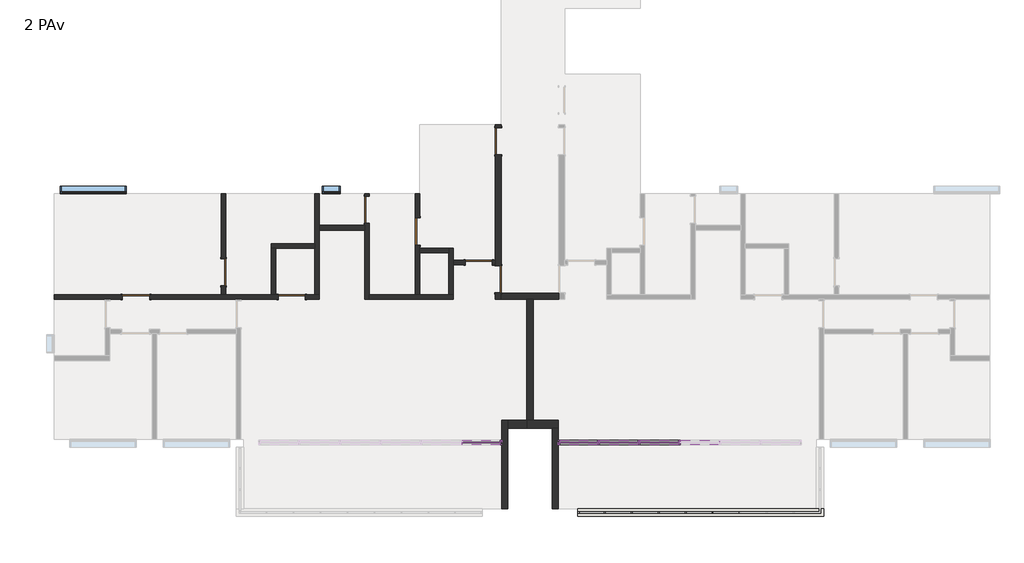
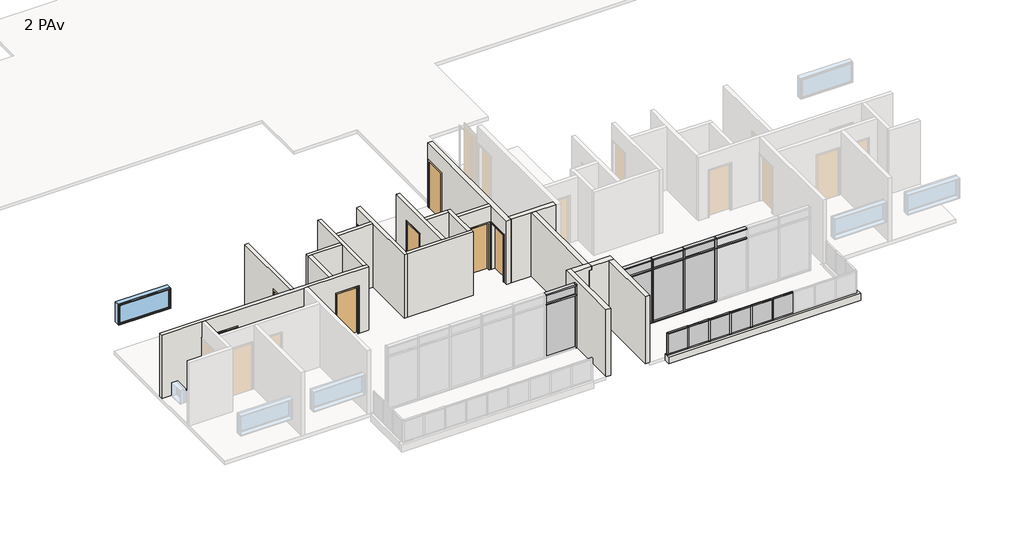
# One storey, part 2 of 6: 40 members, 20 walls, 14 plates, 8 doors, 2 windows.
"""IFC4 building model written with IfcOpenShell, lengths in millimetres."""

from ifc_helpers import new_model, si_unit, frame, origin, place, context, project, spatial, polyline, outline, extrude, faceted_brep, transform, mapped, element, save
from components import door_90_x_210_2c83007d, door_90_x_210_ee935524, door_90_x_210_565370b3, montante_retangular_50_mm_quadrado_4acded50, montante_retangular_50_mm_quadrado_237d7072, montante_retangular_50_mm_quadrado_84e40a56, montante_retangular_50_mm_quadrado_3d152aff, montante_retangular_50_x_150_mm_6217edde, montante_retangular_50_x_150_mm_a22249d7, montante_retangular_50_x_150_mm_6225e4e3, montante_retangular_50_x_150_mm_1ca2bba2, montante_retangular_50_x_150_mm_6abf4531, montante_retangular_50_x_150_mm_662c37b1, montante_retangular_50_x_150_mm_567eccab, montante_retangular_50_x_150_mm_0a8c3443, painel_do_sistema_57ceaf50, painel_do_sistema_ab0ed719, painel_do_sistema_1ecb5f42, painel_do_sistema_49db1829, painel_do_sistema_5ea5287b, painel_do_sistema_7730abee, window_0610_x_0610_mm_da1d4716, window_220_x_90_cea65aae

model = new_model("IFC4")

# Units and contexts
model_context = context("Model", 3, world=origin())
ifc_project = project(units=[si_unit("LENGTHUNIT", "METRE", prefix="MILLI")], contexts=[model_context])

# Site, building, storey
site = spatial("IfcSite", under=ifc_project)
building = spatial("IfcBuilding", under=site)
storey = spatial("IfcBuildingStorey", under=building, Name="2 PAv", Elevation=6000.0)

# Doors
placement = place(None, origin())
door_90_x_210_shape = door_90_x_210_2c83007d(model_context)
element("IfcDoor", 1, ObjectType="M_Descarga simples : 90 x 210", at=placement, inside=storey, context=model_context, shape_type="MappedRepresentation", body=[
    mapped(door_90_x_210_shape, transform((-2076.2265742, -2546.3385375, 6000.0), x_axis=(0.0, 1.0, 0.0), y_axis=(-1.0, 0.0, 0.0), z_axis=(0.0, 0.0, 1.0))),
])
element("IfcDoor", 2, ObjectType="M_Descarga simples : 90 x 210", at=placement, inside=storey, context=model_context, shape_type="MappedRepresentation", body=[
    mapped(door_90_x_210_shape, transform((-2076.2265742, -7125.9292512, 6000.0), x_axis=(0.0, -1.0, 0.0), y_axis=(1.0, 0.0, 0.0), z_axis=(0.0, 0.0, 1.0))),
])
door_90_x_210_2_shape = door_90_x_210_ee935524(model_context)
element("IfcDoor", 3, ObjectType="M_Descarga simples : 90 x 210", at=placement, inside=storey, context=model_context, shape_type="MappedRepresentation", body=[
    mapped(door_90_x_210_2_shape, transform((-2726.2265742, -6571.3385375, 6000.0), x_axis=(1.0, 0.0, 0.0), y_axis=(0.0, 1.0, 0.0), z_axis=(0.0, 0.0, 1.0))),
])
element("IfcDoor", 4, ObjectType="M_Descarga simples : 90 x 210", at=placement, inside=storey, context=model_context, shape_type="MappedRepresentation", body=[
    mapped(door_90_x_210_2_shape, transform((-4751.2265742, -5536.3385375, 6000.0), x_axis=(0.0, 1.0, 0.0), y_axis=(-1.0, 0.0, 0.0), z_axis=(0.0, 0.0, 1.0))),
])
element("IfcDoor", 5, ObjectType="M_Descarga simples : 90 x 210", at=placement, inside=storey, context=model_context, shape_type="MappedRepresentation", body=[
    mapped(door_90_x_210_2_shape, transform((-6441.2265742, -4811.3385375, 6000.0), x_axis=(0.0, 1.0, 0.0), y_axis=(-1.0, 0.0, 0.0), z_axis=(0.0, 0.0, 1.0))),
])
element("IfcDoor", 6, ObjectType="M_Descarga simples : 90 x 210", at=placement, inside=storey, context=model_context, shape_type="MappedRepresentation", body=[
    mapped(door_90_x_210_2_shape, transform((-11191.2265742, -6886.3385375, 6000.0), x_axis=(0.0, -1.0, 0.0), y_axis=(1.0, 0.0, 0.0), z_axis=(0.0, 0.0, 1.0))),
])
door_90_x_210_3_shape = door_90_x_210_565370b3(model_context)
element("IfcDoor", 7, ObjectType="M_Descarga simples : 90 x 210", at=placement, inside=storey, context=model_context, shape_type="MappedRepresentation", body=[
    mapped(door_90_x_210_3_shape, transform((-14096.2265742, -7711.3385375, 6000.0), x_axis=(-1.0, 0.0, 0.0), y_axis=(0.0, -1.0, 0.0), z_axis=(0.0, 0.0, 1.0))),
])
element("IfcDoor", 8, ObjectType="M_Descarga simples : 90 x 210", at=placement, inside=storey, context=model_context, shape_type="MappedRepresentation", body=[
    mapped(door_90_x_210_3_shape, transform((-8936.2265742, -7711.3385375, 6000.0), x_axis=(-1.0, 0.0, 0.0), y_axis=(0.0, -1.0, 0.0), z_axis=(0.0, 0.0, 1.0))),
])

# Members
montante_retangular_50_mm_quadrado_shape = montante_retangular_50_mm_quadrado_4acded50(model_context)
element("IfcMember", 9, ObjectType="Montante retangular : 50 mm Quadrado", at=placement, inside=storey, context=model_context, shape_type="MappedRepresentation", body=[
    mapped(montante_retangular_50_mm_quadrado_shape, transform((1428.7734258, -14856.3385375, 7150.0), x_axis=(0.0, 0.0, 1.0), y_axis=(0.0, -1.0, 0.0), z_axis=(1.0, 0.0, 0.0))),
])
montante_retangular_50_mm_quadrado_2_shape = montante_retangular_50_mm_quadrado_237d7072(model_context)
element("IfcMember", 10, ObjectType="Montante retangular : 50 mm Quadrado", at=placement, inside=storey, context=model_context, shape_type="MappedRepresentation", body=[
    mapped(montante_retangular_50_mm_quadrado_2_shape, transform((2323.7734258, -14856.3385375, 7150.0), x_axis=(0.0, 0.0, 1.0), y_axis=(0.0, -1.0, 0.0), z_axis=(1.0, 0.0, 0.0))),
])
element("IfcMember", 11, ObjectType="Montante retangular : 50 mm Quadrado", at=placement, inside=storey, context=model_context, shape_type="MappedRepresentation", body=[
    mapped(montante_retangular_50_mm_quadrado_2_shape, transform((3218.7734258, -14856.3385375, 7150.0), x_axis=(0.0, 0.0, 1.0), y_axis=(0.0, -1.0, 0.0), z_axis=(1.0, 0.0, 0.0))),
])
element("IfcMember", 12, ObjectType="Montante retangular : 50 mm Quadrado", at=placement, inside=storey, context=model_context, shape_type="MappedRepresentation", body=[
    mapped(montante_retangular_50_mm_quadrado_2_shape, transform((4113.7734258, -14856.3385375, 7150.0), x_axis=(0.0, 0.0, 1.0), y_axis=(0.0, -1.0, 0.0), z_axis=(1.0, 0.0, 0.0))),
])
element("IfcMember", 13, ObjectType="Montante retangular : 50 mm Quadrado", at=placement, inside=storey, context=model_context, shape_type="MappedRepresentation", body=[
    mapped(montante_retangular_50_mm_quadrado_2_shape, transform((5008.7734258, -14856.3385375, 7150.0), x_axis=(0.0, 0.0, 1.0), y_axis=(0.0, -1.0, 0.0), z_axis=(1.0, 0.0, 0.0))),
])
element("IfcMember", 14, ObjectType="Montante retangular : 50 mm Quadrado", at=placement, inside=storey, context=model_context, shape_type="MappedRepresentation", body=[
    mapped(montante_retangular_50_mm_quadrado_2_shape, transform((5903.7734258, -14856.3385375, 7150.0), x_axis=(0.0, 0.0, 1.0), y_axis=(0.0, -1.0, 0.0), z_axis=(1.0, 0.0, 0.0))),
])
element("IfcMember", 15, ObjectType="Montante retangular : 50 mm Quadrado", at=placement, inside=storey, context=model_context, shape_type="MappedRepresentation", body=[
    mapped(montante_retangular_50_mm_quadrado_shape, transform((608.7734258, -14856.3385375, 6150.0), x_axis=(0.0, 0.0, -1.0), y_axis=(0.0, -1.0, 0.0), z_axis=(-1.0, 0.0, 0.0))),
])
element("IfcMember", 16, ObjectType="Montante retangular : 50 mm Quadrado", at=placement, inside=storey, context=model_context, shape_type="MappedRepresentation", body=[
    mapped(montante_retangular_50_mm_quadrado_2_shape, transform((1478.7734258, -14856.3385375, 6150.0), x_axis=(0.0, 0.0, -1.0), y_axis=(0.0, -1.0, 0.0), z_axis=(-1.0, 0.0, 0.0))),
])
element("IfcMember", 17, ObjectType="Montante retangular : 50 mm Quadrado", at=placement, inside=storey, context=model_context, shape_type="MappedRepresentation", body=[
    mapped(montante_retangular_50_mm_quadrado_2_shape, transform((2373.7734258, -14856.3385375, 6150.0), x_axis=(0.0, 0.0, -1.0), y_axis=(0.0, -1.0, 0.0), z_axis=(-1.0, 0.0, 0.0))),
])
element("IfcMember", 18, ObjectType="Montante retangular : 50 mm Quadrado", at=placement, inside=storey, context=model_context, shape_type="MappedRepresentation", body=[
    mapped(montante_retangular_50_mm_quadrado_2_shape, transform((3268.7734258, -14856.3385375, 6150.0), x_axis=(0.0, 0.0, -1.0), y_axis=(0.0, -1.0, 0.0), z_axis=(-1.0, 0.0, 0.0))),
])
element("IfcMember", 19, ObjectType="Montante retangular : 50 mm Quadrado", at=placement, inside=storey, context=model_context, shape_type="MappedRepresentation", body=[
    mapped(montante_retangular_50_mm_quadrado_2_shape, transform((4163.7734258, -14856.3385375, 6150.0), x_axis=(0.0, 0.0, -1.0), y_axis=(0.0, -1.0, 0.0), z_axis=(-1.0, 0.0, 0.0))),
])
element("IfcMember", 20, ObjectType="Montante retangular : 50 mm Quadrado", at=placement, inside=storey, context=model_context, shape_type="MappedRepresentation", body=[
    mapped(montante_retangular_50_mm_quadrado_2_shape, transform((5058.7734258, -14856.3385375, 6150.0), x_axis=(0.0, 0.0, -1.0), y_axis=(0.0, -1.0, 0.0), z_axis=(-1.0, 0.0, 0.0))),
])
montante_retangular_50_mm_quadrado_3_shape = montante_retangular_50_mm_quadrado_84e40a56(model_context)
element("IfcMember", 21, ObjectType="Montante retangular : 50 mm Quadrado", at=placement, inside=storey, context=model_context, shape_type="MappedRepresentation", body=[
    mapped(montante_retangular_50_mm_quadrado_3_shape, transform((1453.7734258, -14856.3385375, 6150.0), x_axis=(1.0, 0.0, 0.0), y_axis=(0.0, -1.0, 0.0), z_axis=(0.0, 0.0, -1.0))),
])
element("IfcMember", 22, ObjectType="Montante retangular : 50 mm Quadrado", at=placement, inside=storey, context=model_context, shape_type="MappedRepresentation", body=[
    mapped(montante_retangular_50_mm_quadrado_3_shape, transform((2348.7734258, -14856.3385375, 6150.0), x_axis=(1.0, 0.0, 0.0), y_axis=(0.0, -1.0, 0.0), z_axis=(0.0, 0.0, -1.0))),
])
element("IfcMember", 23, ObjectType="Montante retangular : 50 mm Quadrado", at=placement, inside=storey, context=model_context, shape_type="MappedRepresentation", body=[
    mapped(montante_retangular_50_mm_quadrado_3_shape, transform((3243.7734258, -14856.3385375, 6150.0), x_axis=(1.0, 0.0, 0.0), y_axis=(0.0, -1.0, 0.0), z_axis=(0.0, 0.0, -1.0))),
])
element("IfcMember", 24, ObjectType="Montante retangular : 50 mm Quadrado", at=placement, inside=storey, context=model_context, shape_type="MappedRepresentation", body=[
    mapped(montante_retangular_50_mm_quadrado_3_shape, transform((4138.7734258, -14856.3385375, 6150.0), x_axis=(1.0, 0.0, 0.0), y_axis=(0.0, -1.0, 0.0), z_axis=(0.0, 0.0, -1.0))),
])
montante_retangular_50_mm_quadrado_4_shape = montante_retangular_50_mm_quadrado_3d152aff(model_context)
element("IfcMember", 25, ObjectType="Montante retangular : 50 mm Quadrado", at=placement, inside=storey, context=model_context, shape_type="MappedRepresentation", body=[
    mapped(montante_retangular_50_mm_quadrado_4_shape, transform((558.7734258, -14856.3385375, 7150.0), x_axis=(-1.0, 0.0, 0.0), y_axis=(0.0, -1.0, 0.0), z_axis=(0.0, 0.0, 1.0))),
])
montante_retangular_50_x_150_mm_shape = montante_retangular_50_x_150_mm_6217edde(model_context)
element("IfcMember", 26, ObjectType="Montante retangular : 50 x 150 mm", at=placement, inside=storey, context=model_context, shape_type="MappedRepresentation", body=[
    mapped(montante_retangular_50_x_150_mm_shape, transform((-2011.2265742, -12536.3385375, 8850.0), x_axis=(0.0, 0.0, 1.0), y_axis=(0.0, -1.0, 0.0), z_axis=(1.0, 0.0, 0.0))),
])
element("IfcMember", 27, ObjectType="Montante retangular : 50 x 150 mm", at=placement, inside=storey, context=model_context, shape_type="MappedRepresentation", body=[
    mapped(montante_retangular_50_x_150_mm_shape, transform((-41.2265742, -12536.3385375, 8850.0), x_axis=(0.0, 0.0, 1.0), y_axis=(0.0, 1.0, 0.0), z_axis=(-1.0, 0.0, 0.0))),
])
montante_retangular_50_x_150_mm_2_shape = montante_retangular_50_x_150_mm_a22249d7(model_context)
element("IfcMember", 28, ObjectType="Montante retangular : 50 x 150 mm", at=placement, inside=storey, context=model_context, shape_type="MappedRepresentation", body=[
    mapped(montante_retangular_50_x_150_mm_2_shape, transform((3966.2734258, -12536.3385375, 8850.0), x_axis=(0.0, 0.0, 1.0), y_axis=(0.0, 1.0, 0.0), z_axis=(-1.0, 0.0, 0.0))),
])
element("IfcMember", 29, ObjectType="Montante retangular : 50 x 150 mm", at=placement, inside=storey, context=model_context, shape_type="MappedRepresentation", body=[
    mapped(montante_retangular_50_x_150_mm_2_shape, transform((2622.1067592, -12536.3385375, 8850.0), x_axis=(0.0, 0.0, 1.0), y_axis=(0.0, 1.0, 0.0), z_axis=(-1.0, 0.0, 0.0))),
])
element("IfcMember", 30, ObjectType="Montante retangular : 50 x 150 mm", at=placement, inside=storey, context=model_context, shape_type="MappedRepresentation", body=[
    mapped(montante_retangular_50_x_150_mm_2_shape, transform((1277.9400925, -12536.3385375, 8850.0), x_axis=(0.0, 0.0, 1.0), y_axis=(0.0, 1.0, 0.0), z_axis=(-1.0, 0.0, 0.0))),
])
element("IfcMember", 31, ObjectType="Montante retangular : 50 x 150 mm", at=placement, inside=storey, context=model_context, shape_type="MappedRepresentation", body=[
    mapped(montante_retangular_50_x_150_mm_shape, transform((1227.9400925, -12536.3385375, 6000.0), x_axis=(0.0, 0.0, -1.0), y_axis=(0.0, 1.0, 0.0), z_axis=(1.0, 0.0, 0.0))),
])
element("IfcMember", 32, ObjectType="Montante retangular : 50 x 150 mm", at=placement, inside=storey, context=model_context, shape_type="MappedRepresentation", body=[
    mapped(montante_retangular_50_x_150_mm_2_shape, transform((3916.2734258, -12536.3385375, 6000.0), x_axis=(0.0, 0.0, -1.0), y_axis=(0.0, 1.0, 0.0), z_axis=(1.0, 0.0, 0.0))),
])
element("IfcMember", 33, ObjectType="Montante retangular : 50 x 150 mm", at=placement, inside=storey, context=model_context, shape_type="MappedRepresentation", body=[
    mapped(montante_retangular_50_x_150_mm_2_shape, transform((2572.1067592, -12536.3385375, 6000.0), x_axis=(0.0, 0.0, -1.0), y_axis=(0.0, 1.0, 0.0), z_axis=(1.0, 0.0, 0.0))),
])
montante_retangular_50_x_150_mm_3_shape = montante_retangular_50_x_150_mm_6225e4e3(model_context)
element("IfcMember", 34, ObjectType="Montante retangular : 50 x 150 mm", at=placement, inside=storey, context=model_context, shape_type="MappedRepresentation", body=[
    mapped(montante_retangular_50_x_150_mm_3_shape, transform((3941.2734258, -12536.3385375, 6000.0), x_axis=(-1.0, 0.0, 0.0), y_axis=(0.0, 1.0, 0.0), z_axis=(0.0, 0.0, -1.0))),
])
element("IfcMember", 35, ObjectType="Montante retangular : 50 x 150 mm", at=placement, inside=storey, context=model_context, shape_type="MappedRepresentation", body=[
    mapped(montante_retangular_50_x_150_mm_3_shape, transform((2597.1067592, -12536.3385375, 6000.0), x_axis=(-1.0, 0.0, 0.0), y_axis=(0.0, 1.0, 0.0), z_axis=(0.0, 0.0, -1.0))),
])
element("IfcMember", 36, ObjectType="Montante retangular : 50 x 150 mm", at=placement, inside=storey, context=model_context, shape_type="MappedRepresentation", body=[
    mapped(montante_retangular_50_x_150_mm_3_shape, transform((1252.9400925, -12536.3385375, 6000.0), x_axis=(-1.0, 0.0, 0.0), y_axis=(0.0, 1.0, 0.0), z_axis=(0.0, 0.0, -1.0))),
])
montante_retangular_50_x_150_mm_4_shape = montante_retangular_50_x_150_mm_1ca2bba2(model_context)
element("IfcMember", 37, ObjectType="Montante retangular : 50 x 150 mm", at=placement, inside=storey, context=model_context, shape_type="MappedRepresentation", body=[
    mapped(montante_retangular_50_x_150_mm_4_shape, transform((-41.2265742, -12536.3385375, 8400.0), x_axis=(0.0, 0.0, 1.0), y_axis=(0.0, 1.0, 0.0), z_axis=(-1.0, 0.0, 0.0))),
])
montante_retangular_50_x_150_mm_5_shape = montante_retangular_50_x_150_mm_6abf4531(model_context)
element("IfcMember", 38, ObjectType="Montante retangular : 50 x 150 mm", at=placement, inside=storey, context=model_context, shape_type="MappedRepresentation", body=[
    mapped(montante_retangular_50_x_150_mm_5_shape, transform((3966.2734258, -12536.3385375, 8400.0), x_axis=(0.0, 0.0, 1.0), y_axis=(0.0, 1.0, 0.0), z_axis=(-1.0, 0.0, 0.0))),
])
element("IfcMember", 39, ObjectType="Montante retangular : 50 x 150 mm", at=placement, inside=storey, context=model_context, shape_type="MappedRepresentation", body=[
    mapped(montante_retangular_50_x_150_mm_5_shape, transform((2622.1067592, -12536.3385375, 8400.0), x_axis=(0.0, 0.0, 1.0), y_axis=(0.0, 1.0, 0.0), z_axis=(-1.0, 0.0, 0.0))),
])
element("IfcMember", 40, ObjectType="Montante retangular : 50 x 150 mm", at=placement, inside=storey, context=model_context, shape_type="MappedRepresentation", body=[
    mapped(montante_retangular_50_x_150_mm_5_shape, transform((1277.9400925, -12536.3385375, 8400.0), x_axis=(0.0, 0.0, 1.0), y_axis=(0.0, 1.0, 0.0), z_axis=(-1.0, 0.0, 0.0))),
])
montante_retangular_50_x_150_mm_6_shape = montante_retangular_50_x_150_mm_662c37b1(model_context)
element("IfcMember", 41, ObjectType="Montante retangular : 50 x 150 mm", at=placement, inside=storey, context=model_context, shape_type="MappedRepresentation", body=[
    mapped(montante_retangular_50_x_150_mm_6_shape, transform((-91.2265742, -12536.3385375, 6000.0), x_axis=(-1.0, 0.0, 0.0), y_axis=(0.0, 1.0, 0.0), z_axis=(0.0, 0.0, -1.0))),
])
montante_retangular_50_x_150_mm_7_shape = montante_retangular_50_x_150_mm_567eccab(model_context)
element("IfcMember", 42, ObjectType="Montante retangular : 50 x 150 mm", at=placement, inside=storey, context=model_context, shape_type="MappedRepresentation", body=[
    mapped(montante_retangular_50_x_150_mm_7_shape, transform((3941.2734258, -12536.3385375, 8400.0), x_axis=(-1.0, 0.0, 0.0), y_axis=(0.0, 1.0, 0.0), z_axis=(0.0, 0.0, -1.0))),
])
element("IfcMember", 43, ObjectType="Montante retangular : 50 x 150 mm", at=placement, inside=storey, context=model_context, shape_type="MappedRepresentation", body=[
    mapped(montante_retangular_50_x_150_mm_7_shape, transform((2597.1067592, -12536.3385375, 8400.0), x_axis=(-1.0, 0.0, 0.0), y_axis=(0.0, 1.0, 0.0), z_axis=(0.0, 0.0, -1.0))),
])
element("IfcMember", 44, ObjectType="Montante retangular : 50 x 150 mm", at=placement, inside=storey, context=model_context, shape_type="MappedRepresentation", body=[
    mapped(montante_retangular_50_x_150_mm_7_shape, transform((1252.9400925, -12536.3385375, 8400.0), x_axis=(-1.0, 0.0, 0.0), y_axis=(0.0, 1.0, 0.0), z_axis=(0.0, 0.0, -1.0))),
])
montante_retangular_50_x_150_mm_8_shape = montante_retangular_50_x_150_mm_0a8c3443(model_context)
element("IfcMember", 45, ObjectType="Montante retangular : 50 x 150 mm", at=placement, inside=storey, context=model_context, shape_type="MappedRepresentation", body=[
    mapped(montante_retangular_50_x_150_mm_8_shape, transform((-91.2265742, -12536.3385375, 8400.0), x_axis=(-1.0, 0.0, 0.0), y_axis=(0.0, 1.0, 0.0), z_axis=(0.0, 0.0, -1.0))),
])
element("IfcMember", 46, ObjectType="Montante retangular : 50 x 150 mm", at=placement, inside=storey, context=model_context, shape_type="MappedRepresentation", body=[
    mapped(montante_retangular_50_x_150_mm_4_shape, transform((-2011.2265742, -12536.3385375, 8400.0), x_axis=(0.0, 0.0, 1.0), y_axis=(0.0, -1.0, 0.0), z_axis=(1.0, 0.0, 0.0))),
])
element("IfcMember", 47, ObjectType="Montante retangular : 50 x 150 mm", at=placement, inside=storey, context=model_context, shape_type="MappedRepresentation", body=[
    mapped(montante_retangular_50_x_150_mm_6_shape, transform((-1961.2265742, -12536.3385375, 6000.0), x_axis=(1.0, 0.0, 0.0), y_axis=(0.0, -1.0, 0.0), z_axis=(0.0, 0.0, -1.0))),
])
element("IfcMember", 48, ObjectType="Montante retangular : 50 x 150 mm", at=placement, inside=storey, context=model_context, shape_type="MappedRepresentation", body=[
    mapped(montante_retangular_50_x_150_mm_8_shape, transform((-1961.2265742, -12536.3385375, 8400.0), x_axis=(1.0, 0.0, 0.0), y_axis=(0.0, -1.0, 0.0), z_axis=(0.0, 0.0, -1.0))),
])

# Plates
painel_do_sistema_shape = painel_do_sistema_57ceaf50(model_context)
element("IfcPlate", 49, ObjectType="Painel do sistema : Envidraçado", at=placement, inside=storey, context=model_context, shape_type="MappedRepresentation", body=[
    mapped(painel_do_sistema_shape, transform((1018.7734258, -14856.3385375, 6200.0), x_axis=(1.0, 0.0, 0.0), y_axis=(0.0, 1.0, 0.0), z_axis=(0.0, 0.0, 1.0))),
])
painel_do_sistema_2_shape = painel_do_sistema_ab0ed719(model_context)
element("IfcPlate", 50, ObjectType="Painel do sistema : Envidraçado", at=placement, inside=storey, context=model_context, shape_type="MappedRepresentation", body=[
    mapped(painel_do_sistema_2_shape, transform((1901.2734258, -14856.3385375, 6200.0), x_axis=(1.0, 0.0, 0.0), y_axis=(0.0, 1.0, 0.0), z_axis=(0.0, 0.0, 1.0))),
])
element("IfcPlate", 51, ObjectType="Painel do sistema : Envidraçado", at=placement, inside=storey, context=model_context, shape_type="MappedRepresentation", body=[
    mapped(painel_do_sistema_2_shape, transform((2796.2734258, -14856.3385375, 6200.0), x_axis=(1.0, 0.0, 0.0), y_axis=(0.0, 1.0, 0.0), z_axis=(0.0, 0.0, 1.0))),
])
element("IfcPlate", 52, ObjectType="Painel do sistema : Envidraçado", at=placement, inside=storey, context=model_context, shape_type="MappedRepresentation", body=[
    mapped(painel_do_sistema_2_shape, transform((3691.2734258, -14856.3385375, 6200.0), x_axis=(1.0, 0.0, 0.0), y_axis=(0.0, 1.0, 0.0), z_axis=(0.0, 0.0, 1.0))),
])
element("IfcPlate", 53, ObjectType="Painel do sistema : Envidraçado", at=placement, inside=storey, context=model_context, shape_type="MappedRepresentation", body=[
    mapped(painel_do_sistema_2_shape, transform((4586.2734258, -14856.3385375, 6200.0), x_axis=(1.0, 0.0, 0.0), y_axis=(0.0, 1.0, 0.0), z_axis=(0.0, 0.0, 1.0))),
])
element("IfcPlate", 54, ObjectType="Painel do sistema : Envidraçado", at=placement, inside=storey, context=model_context, shape_type="MappedRepresentation", body=[
    mapped(painel_do_sistema_2_shape, transform((5481.2734258, -14856.3385375, 6200.0), x_axis=(1.0, 0.0, 0.0), y_axis=(0.0, 1.0, 0.0), z_axis=(0.0, 0.0, 1.0))),
])
painel_do_sistema_3_shape = painel_do_sistema_1ecb5f42(model_context)
element("IfcPlate", 55, ObjectType="Painel do sistema : Envidraçado", at=placement, inside=storey, context=model_context, shape_type="MappedRepresentation", body=[
    mapped(painel_do_sistema_3_shape, transform((593.3567592, -12536.3385375, 6050.0), x_axis=(-1.0, 0.0, 0.0), y_axis=(0.0, -1.0, 0.0), z_axis=(0.0, 0.0, 1.0))),
])
painel_do_sistema_4_shape = painel_do_sistema_49db1829(model_context)
element("IfcPlate", 56, ObjectType="Painel do sistema : Envidraçado", at=placement, inside=storey, context=model_context, shape_type="MappedRepresentation", body=[
    mapped(painel_do_sistema_4_shape, transform((3269.1900925, -12536.3385375, 6050.0), x_axis=(-1.0, 0.0, 0.0), y_axis=(0.0, -1.0, 0.0), z_axis=(0.0, 0.0, 1.0))),
])
element("IfcPlate", 57, ObjectType="Painel do sistema : Envidraçado", at=placement, inside=storey, context=model_context, shape_type="MappedRepresentation", body=[
    mapped(painel_do_sistema_4_shape, transform((1925.0234258, -12536.3385375, 6050.0), x_axis=(-1.0, 0.0, 0.0), y_axis=(0.0, -1.0, 0.0), z_axis=(0.0, 0.0, 1.0))),
])
painel_do_sistema_5_shape = painel_do_sistema_5ea5287b(model_context)
element("IfcPlate", 58, ObjectType="Painel do sistema : Envidraçado", at=placement, inside=storey, context=model_context, shape_type="MappedRepresentation", body=[
    mapped(painel_do_sistema_5_shape, transform((593.3567592, -12536.3385375, 8425.0), x_axis=(-1.0, 0.0, 0.0), y_axis=(0.0, -1.0, 0.0), z_axis=(0.0, 0.0, 1.0))),
])
painel_do_sistema_6_shape = painel_do_sistema_7730abee(model_context)
element("IfcPlate", 59, ObjectType="Painel do sistema : Envidraçado", at=placement, inside=storey, context=model_context, shape_type="MappedRepresentation", body=[
    mapped(painel_do_sistema_6_shape, transform((3269.1900925, -12536.3385375, 8425.0), x_axis=(-1.0, 0.0, 0.0), y_axis=(0.0, -1.0, 0.0), z_axis=(0.0, 0.0, 1.0))),
])
element("IfcPlate", 60, ObjectType="Painel do sistema : Envidraçado", at=placement, inside=storey, context=model_context, shape_type="MappedRepresentation", body=[
    mapped(painel_do_sistema_6_shape, transform((1925.0234258, -12536.3385375, 8425.0), x_axis=(-1.0, 0.0, 0.0), y_axis=(0.0, -1.0, 0.0), z_axis=(0.0, 0.0, 1.0))),
])
element("IfcPlate", 61, ObjectType="Painel do sistema : Envidraçado", at=placement, inside=storey, context=model_context, shape_type="MappedRepresentation", body=[
    mapped(painel_do_sistema_3_shape, transform((-2645.8099075, -12536.3385375, 6050.0), x_axis=(1.0, 0.0, 0.0), y_axis=(0.0, 1.0, 0.0), z_axis=(0.0, 0.0, 1.0))),
])
element("IfcPlate", 62, ObjectType="Painel do sistema : Envidraçado", at=placement, inside=storey, context=model_context, shape_type="MappedRepresentation", body=[
    mapped(painel_do_sistema_5_shape, transform((-2645.8099075, -12536.3385375, 8425.0), x_axis=(1.0, 0.0, 0.0), y_axis=(0.0, 1.0, 0.0), z_axis=(0.0, 0.0, 1.0))),
])

# Walls
element("IfcWall", 63, ObjectType="Exeterna 25", at=placement, inside=storey, context=model_context, shape_type="Brep", body=[
    faceted_brep([(558.7734258, -14981.3385375, 5850.0), (8713.7734258, -14981.3385375, 5850.0), (8713.7734258, -14981.3385375, 6150.0), (558.7734258, -14981.3385375, 6150.0), (558.7734258, -14731.3385375, 5850.0), (558.7734258, -14731.3385375, 6150.0), (8463.7734258, -14731.3385375, 6150.0), (8713.7734258, -14731.3385375, 6150.0), (8713.7734258, -14731.3385375, 5850.0), (8463.7734258, -14731.3385375, 5850.0)], [[[0, 1, 2, 3]], [[4, 5, 6, 7, 8, 9]], [[1, 0, 4, 9, 8]], [[3, 2, 7, 6, 5]], [[0, 3, 5, 4]], [[2, 1, 8, 7]]]),
])
element("IfcWall", 64, ObjectType="Exeterna 25", at=placement, inside=storey, context=model_context, shape_type="Brep", body=[
    faceted_brep([(-1126.2265742, -12056.3385375, 6000.0), (-291.2265742, -12056.3385375, 6000.0), (-91.2265742, -12056.3385375, 6000.0), (-91.2265742, -12056.3385375, 9000.0), (-291.2265742, -12056.3385375, 9000.0), (-1026.2265742, -12056.3385375, 9000.0), (-1026.2265742, -12056.3385375, 8850.0), (-1126.2265742, -12056.3385375, 8850.0), (-1126.2265742, -11806.3385375, 6000.0), (-1126.2265742, -11806.3385375, 8850.0), (-1026.2265742, -11806.3385375, 8850.0), (-1026.2265742, -11806.3385375, 9000.0), (-91.2265742, -11806.3385375, 9000.0), (-91.2265742, -11806.3385375, 6000.0), (-926.2265742, -11806.3385375, 6000.0)], [[[0, 1, 2, 3, 4, 5, 6, 7]], [[8, 9, 10, 11, 12, 13, 14]], [[2, 1, 0, 8, 14, 13]], [[5, 4, 3, 12, 11]], [[3, 2, 13, 12]], [[6, 5, 11, 10]], [[6, 10, 9, 7]], [[0, 7, 9, 8]]]),
])
element("IfcWall", 65, ObjectType="Exeterna 25", at=placement, inside=storey, context=model_context, shape_type="SweptSolid", body=[
    extrude(outline(polyline([(6000.0, -1126.2265742), (8850.0, -1126.2265742), (8850.0, -1026.2265742), (9000.0, -1026.2265742), (9000.0, -1761.2265742), (6000.0, -1761.2265742), (6000.0, -1126.2265742)])), frame((0.0, -12056.3385375, 0.0), z_axis=(0.0, 1.0, 0.0), x_axis=(0.0, 0.0, 1.0)), (0.0, 0.0, 1.0), 250.0),
])
element("IfcWall", 66, ObjectType="Interna 15", at=placement, inside=storey, context=model_context, shape_type="Brep", body=[
    faceted_brep([(-13646.2265742, -7786.3385375, 6000.0), (-10766.2265742, -7786.3385375, 6000.0), (-10616.2265742, -7786.3385375, 6000.0), (-9386.2265742, -7786.3385375, 6000.0), (-9386.2265742, -7786.3385375, 8100.0), (-8486.2265742, -7786.3385375, 8100.0), (-8486.2265742, -7786.3385375, 6000.0), (-8016.2265742, -7786.3385375, 6000.0), (-8016.2265742, -7786.3385375, 8850.0), (-10616.2265742, -7786.3385375, 8850.0), (-10766.2265742, -7786.3385375, 8850.0), (-14966.2265742, -7786.3385375, 8850.0), (-15116.2265742, -7786.3385375, 8850.0), (-16816.2265742, -7786.3385375, 8850.0), (-16816.2265742, -7786.3385375, 6000.0), (-15116.2265742, -7786.3385375, 6000.0), (-14966.2265742, -7786.3385375, 6000.0), (-14546.2265742, -7786.3385375, 6000.0), (-14546.2265742, -7786.3385375, 8100.0), (-13646.2265742, -7786.3385375, 8100.0), (-9386.2265742, -7636.3385375, 8100.0), (-9386.2265742, -7636.3385375, 6000.0), (-9466.2265742, -7636.3385375, 6000.0), (-9616.2265742, -7636.3385375, 6000.0), (-11116.2265742, -7636.3385375, 6000.0), (-11266.2265742, -7636.3385375, 6000.0), (-13646.2265742, -7636.3385375, 6000.0), (-13646.2265742, -7636.3385375, 8100.0), (-14546.2265742, -7636.3385375, 8100.0), (-14546.2265742, -7636.3385375, 6000.0), (-16816.2265742, -7636.3385375, 6000.0), (-16816.2265742, -7636.3385375, 8850.0), (-11266.2265742, -7636.3385375, 8850.0), (-11116.2265742, -7636.3385375, 8850.0), (-9616.2265742, -7636.3385375, 8850.0), (-9466.2265742, -7636.3385375, 8850.0), (-8166.2265742, -7636.3385375, 8850.0), (-8016.2265742, -7636.3385375, 8850.0), (-8016.2265742, -7636.3385375, 6000.0), (-8166.2265742, -7636.3385375, 6000.0), (-8486.2265742, -7636.3385375, 6000.0), (-8486.2265742, -7636.3385375, 8100.0)], [[[0, 1, 2, 3, 4, 5, 6, 7, 8, 9, 10, 11, 12, 13, 14, 15, 16, 17, 18, 19]], [[20, 21, 22, 23, 24, 25, 26, 27, 28, 29, 30, 31, 32, 33, 34, 35, 36, 37, 38, 39, 40, 41]], [[30, 29, 17, 16, 15, 14]], [[40, 39, 38, 7, 6]], [[26, 25, 24, 23, 22, 21, 3, 2, 1, 0]], [[13, 12, 11, 10, 9, 8, 37, 36, 35, 34, 33, 32, 31]], [[8, 7, 38, 37]], [[18, 17, 29, 28]], [[19, 18, 28, 27]], [[0, 19, 27, 26]], [[4, 3, 21, 20]], [[5, 4, 20, 41]], [[6, 5, 41, 40]], [[14, 13, 31, 30]]]),
])
element("IfcWall", 67, ObjectType="Interna 15", at=placement, inside=storey, context=model_context, shape_type="Brep", body=[
    faceted_brep([(-8016.2265742, -7636.3385375, 6000.0), (-8016.2265742, -5486.3385375, 6000.0), (-8016.2265742, -5336.3385375, 6000.0), (-8016.2265742, -4286.3385375, 6000.0), (-8016.2265742, -4286.3385375, 8850.0), (-8016.2265742, -5336.3385375, 8850.0), (-8016.2265742, -5486.3385375, 8850.0), (-8016.2265742, -7636.3385375, 8850.0), (-8166.2265742, -7636.3385375, 6000.0), (-8166.2265742, -7636.3385375, 8850.0), (-8166.2265742, -6086.3385375, 8850.0), (-8166.2265742, -5936.3385375, 8850.0), (-8166.2265742, -4286.3385375, 8850.0), (-8166.2265742, -4286.3385375, 6000.0), (-8166.2265742, -5936.3385375, 6000.0), (-8166.2265742, -6086.3385375, 6000.0)], [[[0, 1, 2, 3, 4, 5, 6, 7]], [[8, 9, 10, 11, 12, 13, 14, 15]], [[3, 2, 1, 0, 8, 15, 14, 13]], [[7, 6, 5, 4, 12, 11, 10, 9]], [[0, 7, 9, 8]], [[4, 3, 13, 12]]]),
])
element("IfcWall", 68, ObjectType="Interna 15", at=placement, inside=storey, context=model_context, shape_type="Brep", body=[
    faceted_brep([(-8166.2265742, -5936.3385375, 6000.0), (-9616.2265742, -5936.3385375, 6000.0), (-9616.2265742, -5936.3385375, 8850.0), (-8166.2265742, -5936.3385375, 8850.0), (-8166.2265742, -6086.3385375, 6000.0), (-8166.2265742, -6086.3385375, 8850.0), (-9466.2265742, -6086.3385375, 8850.0), (-9616.2265742, -6086.3385375, 8850.0), (-9616.2265742, -6086.3385375, 6000.0), (-9466.2265742, -6086.3385375, 6000.0)], [[[0, 1, 2, 3]], [[4, 5, 6, 7, 8, 9]], [[1, 0, 4, 9, 8]], [[3, 2, 7, 6, 5]], [[0, 3, 5, 4]], [[2, 1, 8, 7]]]),
])
element("IfcWall", 69, ObjectType="Interna 15", at=placement, inside=storey, context=model_context, shape_type="SweptSolid", body=[
    extrude(outline(polyline([(-9616.2265742, -7636.3385375), (-9616.2265742, -6086.3385375), (-9466.2265742, -6086.3385375), (-9466.2265742, -7636.3385375), (-9616.2265742, -7636.3385375)])), frame((0.0, 0.0, 6000.0), z_axis=(0.0, 0.0, 1.0), x_axis=(1.0, 0.0, 0.0)), (0.0, 0.0, 1.0), 2850.0),
])
element("IfcWall", 70, ObjectType="Interna 15", at=placement, inside=storey, context=model_context, shape_type="SweptSolid", body=[
    extrude(outline(polyline([(-7336.3385375, 8100.0), (-7336.3385375, 6000.0), (-7636.3385375, 6000.0), (-7636.3385375, 8850.0), (-4286.3385375, 8850.0), (-4286.3385375, 6000.0), (-6436.3385375, 6000.0), (-6436.3385375, 8100.0), (-7336.3385375, 8100.0)])), frame((-11266.2265742, 0.0, 0.0), z_axis=(1.0, 0.0, 0.0), x_axis=(0.0, 1.0, 0.0)), (0.0, 0.0, 1.0), 150.0),
])
element("IfcWall", 71, ObjectType="Interna 15", at=placement, inside=storey, context=model_context, shape_type="SweptSolid", body=[
    extrude(outline(polyline([(-6516.2265742, -5486.3385375), (-8016.2265742, -5486.3385375), (-8016.2265742, -5336.3385375), (-6516.2265742, -5336.3385375), (-6516.2265742, -5486.3385375)])), frame((0.0, 0.0, 6000.0), z_axis=(0.0, 0.0, 1.0), x_axis=(1.0, 0.0, 0.0)), (0.0, 0.0, 1.0), 2850.0),
])
element("IfcWall", 72, ObjectType="Interna 15", at=placement, inside=storey, context=model_context, shape_type="Brep", body=[
    faceted_brep([(-6516.2265742, -4286.3385375, 6000.0), (-6516.2265742, -4361.3385375, 6000.0), (-6516.2265742, -4361.3385375, 8100.0), (-6516.2265742, -5261.3385375, 8100.0), (-6516.2265742, -5261.3385375, 6000.0), (-6516.2265742, -5336.3385375, 6000.0), (-6516.2265742, -5486.3385375, 6000.0), (-6516.2265742, -7786.3385375, 6000.0), (-6516.2265742, -7786.3385375, 8850.0), (-6516.2265742, -5486.3385375, 8850.0), (-6516.2265742, -5336.3385375, 8850.0), (-6516.2265742, -4286.3385375, 8850.0), (-6366.2265742, -4361.3385375, 8100.0), (-6366.2265742, -4361.3385375, 6000.0), (-6366.2265742, -4286.3385375, 6000.0), (-6366.2265742, -4286.3385375, 8850.0), (-6366.2265742, -7636.3385375, 8850.0), (-6366.2265742, -7786.3385375, 8850.0), (-6366.2265742, -7786.3385375, 6000.0), (-6366.2265742, -7636.3385375, 6000.0), (-6366.2265742, -5261.3385375, 6000.0), (-6366.2265742, -5261.3385375, 8100.0)], [[[0, 1, 2, 3, 4, 5, 6, 7, 8, 9, 10, 11]], [[12, 13, 14, 15, 16, 17, 18, 19, 20, 21]], [[14, 13, 1, 0]], [[20, 19, 18, 7, 6, 5, 4]], [[11, 10, 9, 8, 17, 16, 15]], [[8, 7, 18, 17]], [[2, 1, 13, 12]], [[3, 2, 12, 21]], [[4, 3, 21, 20]], [[0, 11, 15, 14]]]),
])
element("IfcWall", 73, ObjectType="Interna 15", at=placement, inside=storey, context=model_context, shape_type="Brep", body=[
    faceted_brep([(-6366.2265742, -7786.3385375, 6000.0), (-3576.2265742, -7786.3385375, 6000.0), (-3576.2265742, -7786.3385375, 8850.0), (-6366.2265742, -7786.3385375, 8850.0), (-6366.2265742, -7636.3385375, 6000.0), (-6366.2265742, -7636.3385375, 8850.0), (-4826.2265742, -7636.3385375, 8850.0), (-4676.2265742, -7636.3385375, 8850.0), (-3726.2265742, -7636.3385375, 8850.0), (-3576.2265742, -7636.3385375, 8850.0), (-3576.2265742, -7636.3385375, 6000.0), (-3726.2265742, -7636.3385375, 6000.0), (-4676.2265742, -7636.3385375, 6000.0), (-4826.2265742, -7636.3385375, 6000.0)], [[[0, 1, 2, 3]], [[4, 5, 6, 7, 8, 9, 10, 11, 12, 13]], [[1, 0, 4, 13, 12, 11, 10]], [[3, 2, 9, 8, 7, 6, 5]], [[0, 3, 5, 4]], [[2, 1, 10, 9]]]),
])
element("IfcWall", 74, ObjectType="Interna 15", at=placement, inside=storey, context=model_context, shape_type="Brep", body=[
    faceted_brep([(-4676.2265742, -5086.3385375, 8100.0), (-4676.2265742, -5086.3385375, 6000.0), (-4676.2265742, -4286.3385375, 6000.0), (-4676.2265742, -4286.3385375, 8850.0), (-4676.2265742, -6086.3385375, 8850.0), (-4676.2265742, -6236.3385375, 8850.0), (-4676.2265742, -7636.3385375, 8850.0), (-4676.2265742, -7636.3385375, 6000.0), (-4676.2265742, -6236.3385375, 6000.0), (-4676.2265742, -6086.3385375, 6000.0), (-4676.2265742, -5986.3385375, 6000.0), (-4676.2265742, -5986.3385375, 8100.0), (-4826.2265742, -4286.3385375, 6000.0), (-4826.2265742, -5086.3385375, 6000.0), (-4826.2265742, -5086.3385375, 8100.0), (-4826.2265742, -5986.3385375, 8100.0), (-4826.2265742, -5986.3385375, 6000.0), (-4826.2265742, -7636.3385375, 6000.0), (-4826.2265742, -7636.3385375, 8850.0), (-4826.2265742, -4286.3385375, 8850.0)], [[[0, 1, 2, 3, 4, 5, 6, 7, 8, 9, 10, 11]], [[12, 13, 14, 15, 16, 17, 18, 19]], [[2, 1, 13, 12]], [[10, 9, 8, 7, 17, 16]], [[6, 5, 4, 3, 19, 18]], [[7, 6, 18, 17]], [[14, 13, 1, 0]], [[15, 14, 0, 11]], [[16, 15, 11, 10]], [[3, 2, 12, 19]]]),
])
element("IfcWall", 75, ObjectType="Interna 15", at=placement, inside=storey, context=model_context, shape_type="Brep", body=[
    faceted_brep([(-3576.2265742, -7636.3385375, 6000.0), (-3576.2265742, -6646.3385375, 6000.0), (-3576.2265742, -6496.3385375, 6000.0), (-3576.2265742, -6086.3385375, 6000.0), (-3576.2265742, -6086.3385375, 8850.0), (-3576.2265742, -6496.3385375, 8850.0), (-3576.2265742, -6646.3385375, 8850.0), (-3576.2265742, -7636.3385375, 8850.0), (-3726.2265742, -7636.3385375, 6000.0), (-3726.2265742, -7636.3385375, 8850.0), (-3726.2265742, -6236.3385375, 8850.0), (-3726.2265742, -6086.3385375, 8850.0), (-3726.2265742, -6086.3385375, 6000.0), (-3726.2265742, -6236.3385375, 6000.0)], [[[0, 1, 2, 3, 4, 5, 6, 7]], [[8, 9, 10, 11, 12, 13]], [[3, 2, 1, 0, 8, 13, 12]], [[7, 6, 5, 4, 11, 10, 9]], [[4, 3, 12, 11]], [[0, 7, 9, 8]]]),
])
element("IfcWall", 76, ObjectType="Interna 15", at=placement, inside=storey, context=model_context, shape_type="SweptSolid", body=[
    extrude(outline(polyline([(-4676.2265742, -6086.3385375), (-3726.2265742, -6086.3385375), (-3726.2265742, -6236.3385375), (-4676.2265742, -6236.3385375), (-4676.2265742, -6086.3385375)])), frame((0.0, 0.0, 6000.0), z_axis=(0.0, 0.0, 1.0), x_axis=(1.0, 0.0, 0.0)), (0.0, 0.0, 1.0), 2850.0),
])
element("IfcWall", 77, ObjectType="Interna 15", at=placement, inside=storey, context=model_context, shape_type="SweptSolid", body=[
    extrude(outline(polyline([(8100.0, -2276.2265742), (6000.0, -2276.2265742), (6000.0, -2176.2265742), (8850.0, -2176.2265742), (8850.0, -3576.2265742), (6000.0, -3576.2265742), (6000.0, -3176.2265742), (8100.0, -3176.2265742), (8100.0, -2276.2265742)])), frame((0.0, -6646.3385375, 0.0), z_axis=(0.0, 1.0, 0.0), x_axis=(0.0, 0.0, 1.0)), (0.0, 0.0, 1.0), 150.0),
])
element("IfcWall", 78, ObjectType="Interna 20", at=placement, inside=storey, context=model_context, shape_type="Brep", body=[
    faceted_brep([(-1126.2265742, -7786.3385375, 6000.0), (-1126.2265742, -11806.3385375, 6000.0), (-1126.2265742, -11806.3385375, 8850.0), (-1126.2265742, -7786.3385375, 8850.0), (-926.2265742, -7786.3385375, 6000.0), (-926.2265742, -7786.3385375, 8850.0), (-926.2265742, -11806.3385375, 8850.0), (-926.2265742, -11806.3385375, 6000.0), (-1026.2265742, -11806.3385375, 8850.0)], [[[0, 1, 2, 3]], [[4, 5, 6, 7]], [[1, 0, 4, 7]], [[3, 2, 8, 6, 5]], [[0, 3, 5, 4]], [[2, 1, 7, 6, 8]]]),
])
element("IfcWall", 79, ObjectType="Interna 20", at=placement, inside=storey, context=model_context, shape_type="Brep", body=[
    faceted_brep([(-76.2265742, -7586.3385375, 6000.0), (-1976.2265742, -7586.3385375, 6000.0), (-1976.2265742, -7586.3385375, 8850.0), (-76.2265742, -7586.3385375, 8850.0), (-76.2265742, -7786.3385375, 6000.0), (-76.2265742, -7786.3385375, 8850.0), (-926.2265742, -7786.3385375, 8850.0), (-1126.2265742, -7786.3385375, 8850.0), (-1976.2265742, -7786.3385375, 8850.0), (-1976.2265742, -7786.3385375, 6000.0), (-1126.2265742, -7786.3385375, 6000.0), (-926.2265742, -7786.3385375, 6000.0)], [[[0, 1, 2, 3]], [[4, 5, 6, 7, 8, 9, 10, 11]], [[1, 0, 4, 11, 10, 9]], [[3, 2, 8, 7, 6, 5]], [[0, 3, 5, 4]], [[2, 1, 9, 8]]]),
])
element("IfcWall", 80, ObjectType="Interna 20", at=placement, inside=storey, context=model_context, shape_type="SweptSolid", body=[
    extrude(outline(polyline([(-291.2265742, -14731.3385375), (-291.2265742, -12056.3385375), (-91.2265742, -12056.3385375), (-91.2265742, -14731.3385375), (-291.2265742, -14731.3385375)])), frame((0.0, 0.0, 6000.0), z_axis=(0.0, 0.0, 1.0), x_axis=(1.0, 0.0, 0.0)), (0.0, 0.0, 1.0), 3000.0),
])
element("IfcWall", 81, ObjectType="Interna 20", at=placement, inside=storey, context=model_context, shape_type="Brep", body=[
    faceted_brep([(-1961.2265742, -11806.3385375, 6000.0), (-1961.2265742, -14731.3385375, 6000.0), (-1961.2265742, -14731.3385375, 9000.0), (-1961.2265742, -11806.3385375, 9000.0), (-1761.2265742, -11806.3385375, 6000.0), (-1761.2265742, -11806.3385375, 9000.0), (-1761.2265742, -12056.3385375, 9000.0), (-1761.2265742, -14731.3385375, 9000.0), (-1761.2265742, -14731.3385375, 6000.0), (-1761.2265742, -12056.3385375, 6000.0)], [[[0, 1, 2, 3]], [[4, 5, 6, 7, 8, 9]], [[1, 0, 4, 9, 8]], [[3, 2, 7, 6, 5]], [[0, 3, 5, 4]], [[2, 1, 8, 7]]]),
])
element("IfcWall", 82, ObjectType="Interna 20", at=placement, inside=storey, context=model_context, shape_type="Brep", body=[
    faceted_brep([(-1976.2265742, -7786.3385375, 6000.0), (-1976.2265742, -7586.3385375, 6000.0), (-1976.2265742, -7575.9292512, 6000.0), (-1976.2265742, -7575.9292512, 8100.0), (-1976.2265742, -6675.9292512, 8100.0), (-1976.2265742, -6675.9292512, 6000.0), (-1976.2265742, -2996.3385375, 6000.0), (-1976.2265742, -2996.3385375, 8100.0), (-1976.2265742, -2096.3385375, 8100.0), (-1976.2265742, -2096.3385375, 6000.0), (-1976.2265742, -1996.3385375, 6000.0), (-1976.2265742, -1996.3385375, 8850.0), (-1976.2265742, -7586.3385375, 8850.0), (-1976.2265742, -7786.3385375, 8850.0), (-2176.2265742, -7575.9292512, 8100.0), (-2176.2265742, -7575.9292512, 6000.0), (-2176.2265742, -7786.3385375, 6000.0), (-2176.2265742, -7786.3385375, 8850.0), (-2176.2265742, -6646.3385375, 8850.0), (-2176.2265742, -6496.3385375, 8850.0), (-2176.2265742, -1996.3385375, 8850.0), (-2176.2265742, -1996.3385375, 6000.0), (-2176.2265742, -2096.3385375, 6000.0), (-2176.2265742, -2096.3385375, 8100.0), (-2176.2265742, -2996.3385375, 8100.0), (-2176.2265742, -2996.3385375, 6000.0), (-2176.2265742, -6496.3385375, 6000.0), (-2176.2265742, -6646.3385375, 6000.0), (-2176.2265742, -6675.9292512, 6000.0), (-2176.2265742, -6675.9292512, 8100.0)], [[[0, 1, 2, 3, 4, 5, 6, 7, 8, 9, 10, 11, 12, 13]], [[14, 15, 16, 17, 18, 19, 20, 21, 22, 23, 24, 25, 26, 27, 28, 29]], [[10, 9, 22, 21]], [[16, 15, 2, 1, 0]], [[28, 27, 26, 25, 6, 5]], [[13, 12, 11, 20, 19, 18, 17]], [[0, 13, 17, 16]], [[23, 22, 9, 8]], [[24, 23, 8, 7]], [[25, 24, 7, 6]], [[3, 2, 15, 14]], [[4, 3, 14, 29]], [[5, 4, 29, 28]], [[11, 10, 21, 20]]]),
])

# Windows
window_0610_x_0610_mm_shape = window_0610_x_0610_mm_da1d4716(model_context)
element("IfcWindow", 83, ObjectType="M_Fixado : 0610 x 0610 mm", at=placement, inside=storey, context=model_context, shape_type="MappedRepresentation", body=[
    mapped(window_0610_x_0610_mm_shape, transform((-7616.2265742, -4148.3385375, 6000.0), x_axis=(-1.0, 0.0, 0.0), y_axis=(0.0, -1.0, 0.0), z_axis=(0.0, 0.0, 1.0))),
])
window_220_x_90_shape = window_220_x_90_cea65aae(model_context)
element("IfcWindow", 84, ObjectType="M_Fixado : 220 x 90", at=placement, inside=storey, context=model_context, shape_type="MappedRepresentation", body=[
    mapped(window_220_x_90_shape, transform((-15516.2265742, -4148.3385375, 6185.0), x_axis=(-1.0, 0.0, 0.0), y_axis=(0.0, -1.0, 0.0), z_axis=(0.0, 0.0, 1.0))),
])

save(model, "model.ifc")
